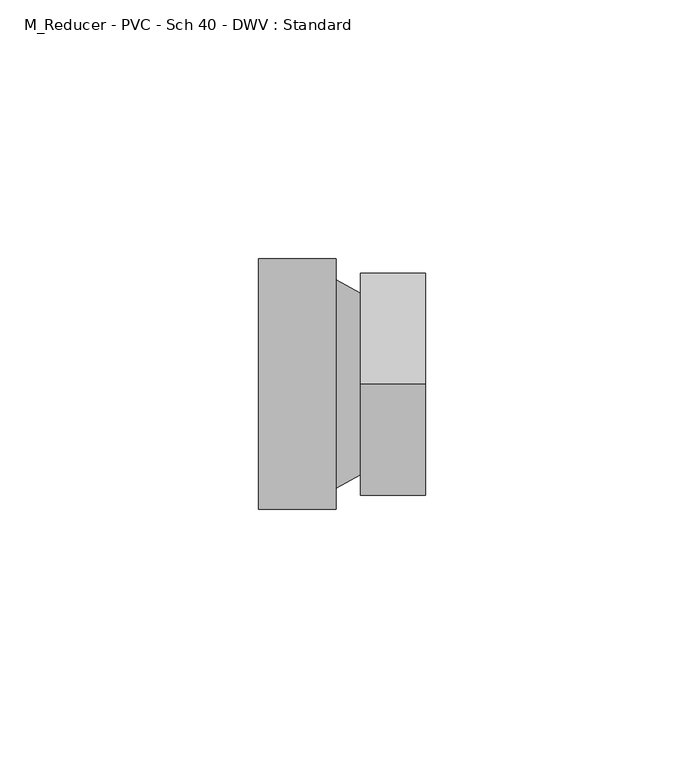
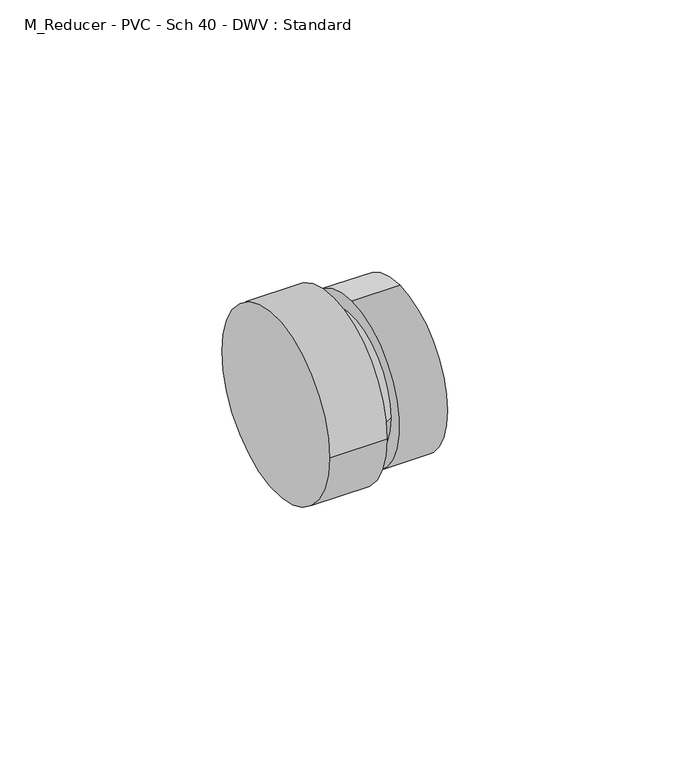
"""IFC4 building model written with IfcOpenShell, lengths in millimetres: pipe fitting geometry, M_Reducer - PVC - Sch 40 - DWV : Standard."""

from ifc_helpers import new_model, si_unit, frame, origin, place, context, project, spatial, polyline, circle_curve, source, transform, mapped, element, save
from ifc_brep_helpers import plane_surface, cylinder_surface, revolved_surface, advanced_brep


def m_reducer_pvc_sch_40_dwv_standard_dc2cd0b0(model_context):
    return source(origin(), model_context, "Body", "AdvancedBrep", [
        advanced_brep(
        [(0.0, -24.1871094, 0.0), (0.0, 24.1871094, 0.0), (15.0, -24.1871094, 0.0), (15.0, 24.1871094, 0.0), (15.0, 20.1640625, 0.0), (15.0, -20.1640625, 0.0), (19.7460938, 17.5640625, 0.0), (19.7460937, -17.5640625, 0.0), (19.7460938, 0.0, 21.4871094), (19.7460938, 0.0, -21.4871094), (32.2460938, 0.0, 21.4871094), (32.2460938, 0.0, -21.4871094)],
        [
            (0, 1, circle_curve(frame((0.0, 0.0, 0.0), z_axis=(-1.0, 0.0, 0.0), x_axis=(0.0, 1.0, 0.0)), 24.1871094)),
            (1, 0, circle_curve(frame((0.0, 0.0, 0.0), z_axis=(-1.0, 0.0, 0.0), x_axis=(0.0, 1.0, 0.0)), 24.1871094)),
            (2, 3, circle_curve(frame((15.0, 0.0, 0.0), z_axis=(1.0, 0.0, 0.0), x_axis=(0.0, 1.0, 0.0)), 24.1871094)),
            (3, 2, circle_curve(frame((15.0, 0.0, 0.0), z_axis=(1.0, 0.0, 0.0), x_axis=(0.0, 1.0, 0.0)), 24.1871094)),
            (4, 5, circle_curve(frame((15.0, 0.0, 0.0), z_axis=(-1.0, 1.2406181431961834e-12, 0.0), x_axis=(-1.240668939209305e-12, -1.0, 0.0)), 20.1640625)),
            (5, 4, circle_curve(frame((15.0, 0.0, 0.0), z_axis=(-1.0, 1.2406181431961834e-12, 0.0), x_axis=(1.240668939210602e-12, 1.0, 0.0)), 20.1640625)),
            (0, 2),
            (3, 1),
            (4, 6),
            (6, 7, circle_curve(frame((19.7460938, 0.0, 0.0), z_axis=(-1.0, 1.2406181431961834e-12, 0.0), x_axis=(-1.240668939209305e-12, -1.0, 0.0)), 17.5640625)),
            (7, 5),
            (7, 6, circle_curve(frame((19.7460938, 0.0, 0.0), z_axis=(-1.0, 1.2406181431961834e-12, 0.0), x_axis=(1.240668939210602e-12, 1.0, 0.0)), 17.5640625)),
            (8, 9, circle_curve(frame((19.7460938, 0.0, 0.0), z_axis=(-1.0, 0.0, 0.0), x_axis=(0.0, 0.0, -1.0)), 21.4871094)),
            (9, 8, circle_curve(frame((19.7460938, 0.0, 0.0), z_axis=(-1.0, 0.0, 0.0), x_axis=(0.0, 0.0, -1.0)), 21.4871094)),
            (10, 11, circle_curve(frame((32.2460938, 0.0, 0.0), z_axis=(1.0, 0.0, 0.0), x_axis=(0.0, 0.0, -1.0)), 21.4871094)),
            (11, 10, circle_curve(frame((32.2460938, 0.0, 0.0), z_axis=(1.0, 0.0, 0.0), x_axis=(0.0, 0.0, -1.0)), 21.4871094)),
            (8, 10),
            (11, 9),
        ],
        [
            plane_surface(frame((0.0, 0.0, 0.0), z_axis=(-1.0, 0.0, 0.0), x_axis=(0.0, 0.0, 1.0))),
            plane_surface(frame((15.0, 0.0, 0.0), z_axis=(1.0, 0.0, 0.0), x_axis=(0.0, 0.0, 1.0))),
            cylinder_surface(frame((0.0, 0.0, 0.0), z_axis=(-1.0, 0.0, 0.0), x_axis=(0.0, 1.0, 0.0)), 24.1871094),
            revolved_surface(polyline([(19.74609380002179, 17.564062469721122, 0.0), (15.0, 20.1640625, 0.0)]), (51.8078965, 0.0, 0.0), (-1.0, 1.2406181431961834e-12, 0.0)),
            plane_surface(frame((19.7460938, 0.0, 0.0), z_axis=(-1.0, 0.0, 0.0), x_axis=(0.0, 1.0, 0.0))),
            plane_surface(frame((32.2460938, 0.0, 0.0), z_axis=(1.0, 0.0, 0.0), x_axis=(0.0, 1.0, 0.0))),
            cylinder_surface(frame((19.7460938, 0.0, 0.0), z_axis=(-1.0, 0.0, 0.0), x_axis=(0.0, 0.0, -1.0)), 21.4871094),
        ],
        [
            (0, [[1, 2]]),
            (1, [[3, 4], [5, 6]]),
            (2, [[-1, 7, -4, 8]]),
            (2, [[-2, -8, -3, -7]]),
            (3, [[9, 10, 11, -5]]),
            (3, [[-9, -6, -11, 12]]),
            (4, [[13, 14], [-10, -12]]),
            (5, [[15, 16]]),
            (6, [[-13, 17, -16, 18]]),
            (6, [[-14, -18, -15, -17]]),
        ],
    ),
    ])


if __name__ == "__main__":
    model = new_model("IFC4")
    model_context = context("Model", 3, world=origin())
    ifc_project = project(units=[si_unit("LENGTHUNIT", "METRE", prefix="MILLI")], contexts=[model_context])
    site = spatial("IfcSite", under=ifc_project)
    building = spatial("IfcBuilding", under=site)
    placement = place(None, origin())
    m_reducer_pvc_sch_40_dwv_standard_shape = m_reducer_pvc_sch_40_dwv_standard_dc2cd0b0(model_context)
    element("IfcPipeFitting", 1, ObjectType="M_Reducer - PVC - Sch 40 - DWV : Standard", at=placement, inside=building, context=model_context, shape_type="MappedRepresentation", body=[
        mapped(m_reducer_pvc_sch_40_dwv_standard_shape, transform((0.0, 0.0, 0.0), x_axis=(1.0, 0.0, 0.0), y_axis=(0.0, 1.0, 0.0), z_axis=(0.0, 0.0, 1.0))),
    ])
    save(model, "model.ifc")
